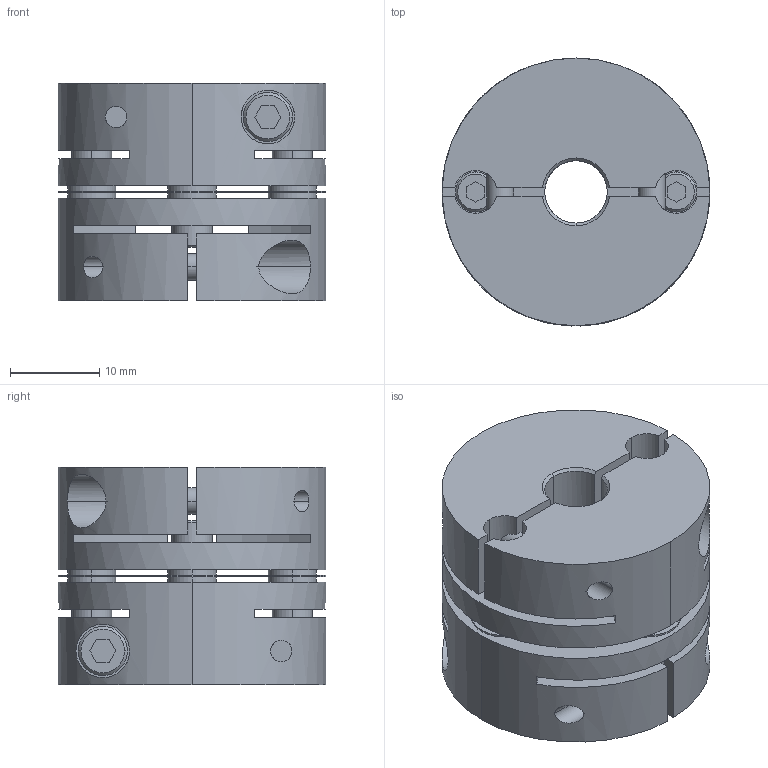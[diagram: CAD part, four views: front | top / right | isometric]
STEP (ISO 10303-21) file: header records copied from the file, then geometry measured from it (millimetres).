
FILE_DESCRIPTION((''),'2;1');
FILE_NAME('LAS-30C-7×14.stp','2011-08-10T13:13:20',(''),(''),'AutoCAD STEP 2000i','AutoCAD 2000i',', , ');
FILE_SCHEMA(('CONFIG_CONTROL_DESIGN'));
Length unit declared in the file: millimetre
Products named in the file (6): LAS-30C-6×10; 忣兜1; LA-3002-D10; LA-3002-D06-1; LA-3002-D06; LAS30-ITA
Assembly tree (5 placements, depth 2):
  LAS-30C-6×10
    忣兜1
    LA-3002-D10
    LA-3002-D06-1
    LA-3002-D06
    LAS30-ITA
Bounding box: 30 x 30 x 24.4 mm (x, y, z)
Volume: 12363.8 mm3; surface area: 9000.8 mm2
Topology: 1 solids, 1 shells, 240 faces, 636 edges, 416 vertices
Faces by surface type: plane 112, cylinder 100, cone 28
Entity records: 8333 total; most frequent: CARTESIAN_POINT 2034, DIRECTION 1316, ORIENTED_EDGE 1272, EDGE_CURVE 636, AXIS2_PLACEMENT_3D 482, VERTEX_POINT 416, VECTOR 352, LINE 352
